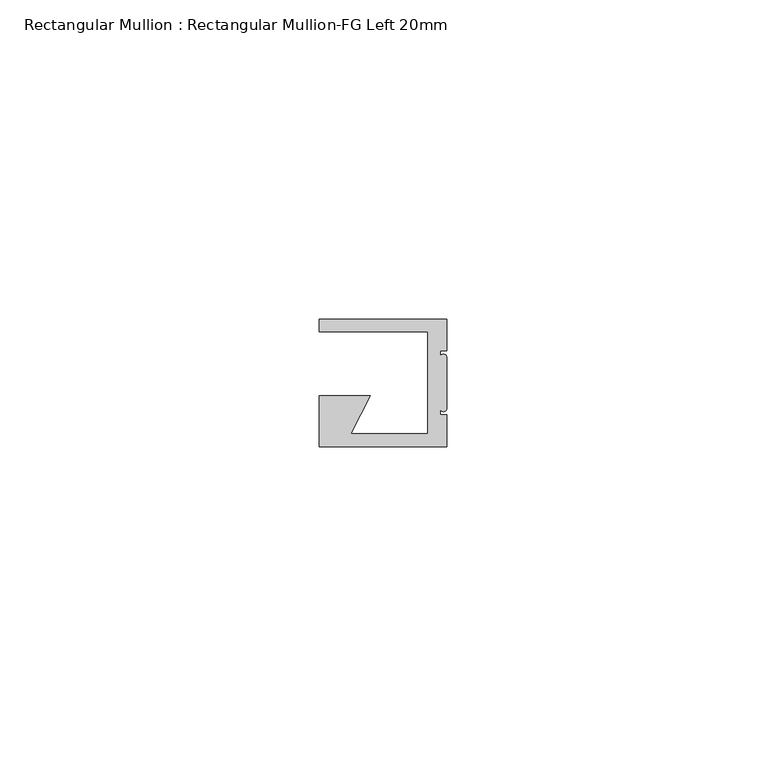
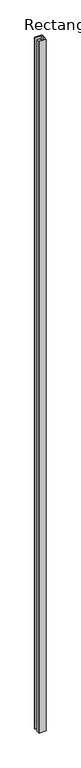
"""IFC4 building model written with IfcOpenShell, lengths in millimetres: member geometry, Rectangular Mullion : Rectangular Mullion-FG Left 20mm."""

from ifc_helpers import new_model, si_unit, point, frame, frame_2d, origin, place, context, project, spatial, polyline, circle_curve, trimmed, segment, composite_curve, outline, extrude, source, transform, mapped, element, save


def rectangular_mullion_rectangular_mullion_fg_left_20mm_3cd01e2b(model_context):
    return source(origin(), model_context, "Body", "SweptSolid", [
        extrude(outline(composite_curve([segment(polyline([(0.0, -15.0), (0.0, -20.0), (-20.0, -20.0), (-20.0, -18.0), (-20.0, -12.0), (-12.0, -12.0), (-15.0, -18.0), (-3.0, -18.0), (-3.0, -2.0), (-20.0, -2.0), (-20.0, 0.0), (0.0, 0.0), (0.0, -5.0), (-1.0, -5.0), (-1.0, -6.0)]), True, "CONTINUOUS"), segment(trimmed(circle_curve(frame_2d((-0.5, -6.0)), 0.5), [point((-1.0, -6.0))], [point((0.0, -6.0))], False, "CARTESIAN"), True, "CONTINUOUS"), segment(polyline([(0.0, -6.0), (0.0, -14.0)]), True, "CONTINUOUS"), segment(trimmed(circle_curve(frame_2d((-0.5, -14.0)), 0.5), [point((0.0, -14.0))], [point((-1.0, -14.0))], False, "CARTESIAN"), True, "CONTINUOUS"), segment(polyline([(-1.0, -14.0), (-1.0, -15.0), (0.0, -15.0)]), True, "CONTINUOUS")], self_intersect=False)), frame((0.0, 0.0, -2010.000045), z_axis=(0.0, 0.0, 1.0), x_axis=(1.0, 0.0, 0.0)), (0.0, 0.0, 1.0), 2010.000045),
    ])


if __name__ == "__main__":
    model = new_model("IFC4")
    model_context = context("Model", 3, world=origin())
    ifc_project = project(units=[si_unit("LENGTHUNIT", "METRE", prefix="MILLI")], contexts=[model_context])
    site = spatial("IfcSite", under=ifc_project)
    building = spatial("IfcBuilding", under=site)
    placement = place(None, origin())
    rectangular_mullion_rectangular_mullion_fg_left_20mm_shape = rectangular_mullion_rectangular_mullion_fg_left_20mm_3cd01e2b(model_context)
    element("IfcMember", 1, ObjectType="Rectangular Mullion : Rectangular Mullion-FG Left 20mm", at=placement, inside=building, context=model_context, shape_type="MappedRepresentation", body=[
        mapped(rectangular_mullion_rectangular_mullion_fg_left_20mm_shape, transform((0.0, 0.0, 0.0), x_axis=(1.0, 0.0, 0.0), y_axis=(0.0, 1.0, 0.0), z_axis=(0.0, 0.0, 1.0))),
    ])
    save(model, "model.ifc")
